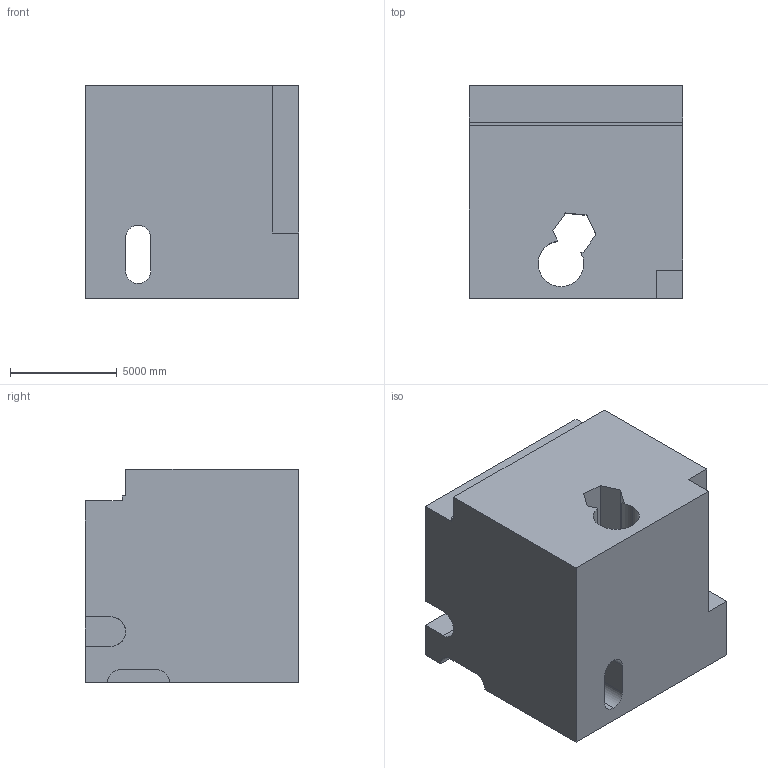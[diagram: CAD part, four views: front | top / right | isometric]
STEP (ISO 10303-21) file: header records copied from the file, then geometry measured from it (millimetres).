
FILE_DESCRIPTION (( 'STEP AP203' ), '1' );
FILE_NAME ('1838.STEP', '2022-08-19T13:24:02', ( 'user' ), ( '' ), 'SwSTEP 2.0', 'SolidWorks 2021', '' );
FILE_SCHEMA (( 'CONFIG_CONTROL_DESIGN' ));
Length unit declared in the file: centimetre
Products named in the file (1): 1838
Bounding box: 10000 x 10000 x 10000 mm (x, y, z)
Volume: 839982173115.4 mm3; surface area: 762403768.7 mm2
Topology: 1 solids, 1 shells, 40 faces, 117 edges, 78 vertices
Faces by surface type: plane 30, cylinder 10
Entity records: 1470 total; most frequent: CARTESIAN_POINT 304, ORIENTED_EDGE 234, DIRECTION 217, EDGE_CURVE 117, VECTOR 95, LINE 95, VERTEX_POINT 78, AXIS2_PLACEMENT_3D 61
